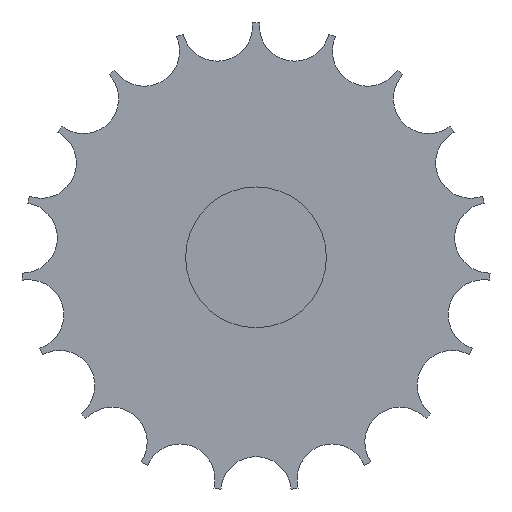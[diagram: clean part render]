
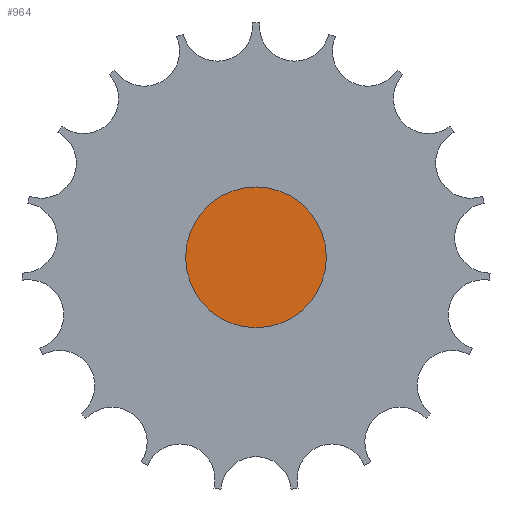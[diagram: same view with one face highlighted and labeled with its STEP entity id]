
A CAD part, front view. The second image highlights one B-rep face of the part: STEP entity #964.
In plain terms, the highlighted planar face has unit normal (0, -1, 0).
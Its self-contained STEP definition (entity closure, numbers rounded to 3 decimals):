
#111 = CARTESIAN_POINT ( 'NONE',  ( 0., -1090., -30. ) ) ;
#167 = CARTESIAN_POINT ( 'NONE',  ( 0., -1090., 30. ) ) ;
#356 = AXIS2_PLACEMENT_3D ( 'NONE', #1469, #1634, #1838 ) ;
#469 = EDGE_CURVE ( 'NONE', #529, #1307, #2021, .T. ) ;
#529 = VERTEX_POINT ( 'NONE', #111 ) ;
#589 = ORIENTED_EDGE ( 'NONE', *, *, #1349, .T. ) ;
#792 = DIRECTION ( 'NONE',  ( 0., 0., -1. ) ) ;
#793 = CIRCLE ( 'NONE', #1839, 30. ) ;
#833 = DIRECTION ( 'NONE',  ( 0., -1., 0. ) ) ;
#869 = AXIS2_PLACEMENT_3D ( 'NONE', #1506, #1169, #792 ) ;
#964 = ADVANCED_FACE ( 'NONE', ( #1989 ), #1292, .T. ) ;
#1112 = ORIENTED_EDGE ( 'NONE', *, *, #469, .T. ) ;
#1169 = DIRECTION ( 'NONE',  ( 0., -1., 0. ) ) ;
#1292 = PLANE ( 'NONE',  #356 ) ;
#1307 = VERTEX_POINT ( 'NONE', #167 ) ;
#1349 = EDGE_CURVE ( 'NONE', #1307, #529, #793, .T. ) ;
#1469 = CARTESIAN_POINT ( 'NONE',  ( 0., -1090., 0. ) ) ;
#1506 = CARTESIAN_POINT ( 'NONE',  ( 0., -1090., 0. ) ) ;
#1508 = CARTESIAN_POINT ( 'NONE',  ( 0., -1090., 0. ) ) ;
#1634 = DIRECTION ( 'NONE',  ( 0., -1., 0. ) ) ;
#1663 = DIRECTION ( 'NONE',  ( 0., 0., -1. ) ) ;
#1831 = EDGE_LOOP ( 'NONE', ( #589, #1112 ) ) ;
#1838 = DIRECTION ( 'NONE',  ( 0., 0., -1. ) ) ;
#1839 = AXIS2_PLACEMENT_3D ( 'NONE', #1508, #833, #1663 ) ;
#1989 = FACE_OUTER_BOUND ( 'NONE', #1831, .T. ) ;
#2021 = CIRCLE ( 'NONE', #869, 30. ) ;
